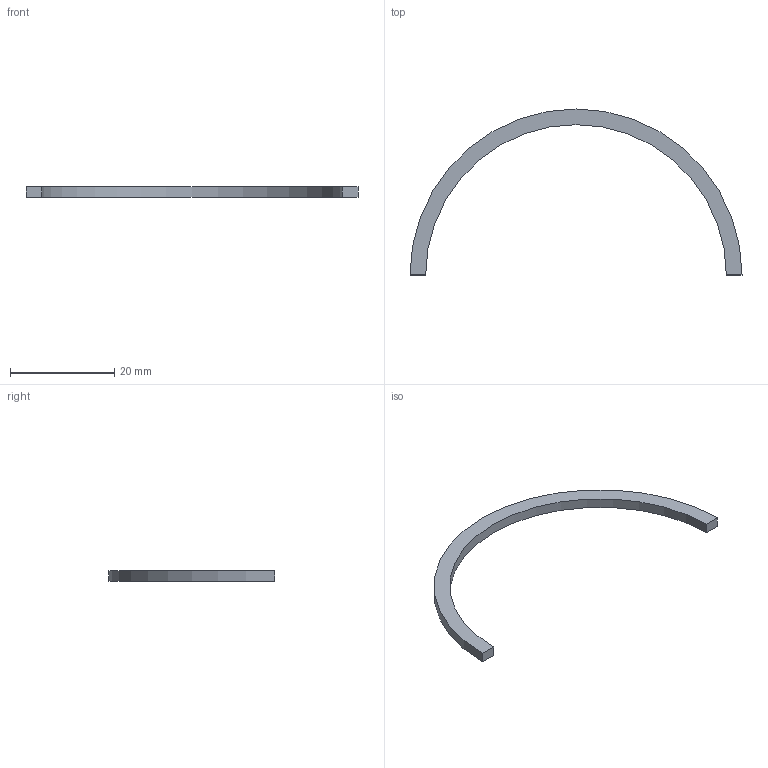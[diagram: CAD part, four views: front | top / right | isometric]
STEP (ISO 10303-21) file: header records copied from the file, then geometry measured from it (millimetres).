
FILE_DESCRIPTION(('Open CASCADE Model'),'2;1');
FILE_NAME('Open CASCADE Shape Model','2026-09-19T13:10:39',('Author'),( 'Open CASCADE'),'Open CASCADE STEP processor 7.9','Open CASCADE 7.9' ,'Unknown');
FILE_SCHEMA(('AUTOMOTIVE_DESIGN { 1 0 10303 214 1 1 1 1 }'));
Length unit declared in the file: millimetre
Products named in the file (1): Open CASCADE STEP translator 7.9 4
Bounding box: 63.6 x 31.8 x 2 mm (x, y, z)
Volume: 571.1 mm3; surface area: 963.9 mm2
Topology: 1 solids, 1 shells, 6 faces, 12 edges, 8 vertices
Faces by surface type: plane 4, cylinder 2
Entity records: 314 total; most frequent: CARTESIAN_POINT 63, DIRECTION 42, ORIENTED_EDGE 24, PCURVE 24, DEFINITIONAL_REPRESENTATION 24, LINE 16, VECTOR 16, EDGE_CURVE 12
